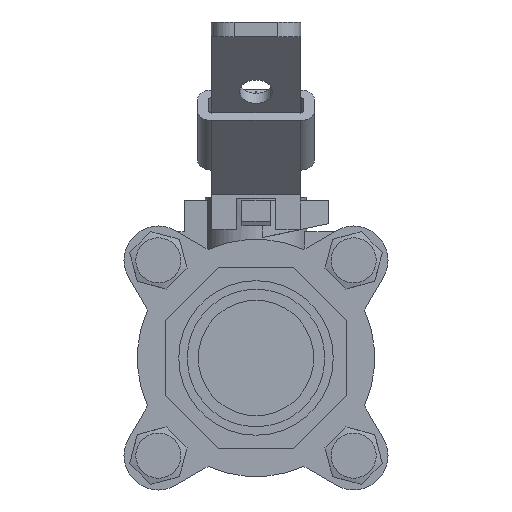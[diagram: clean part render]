
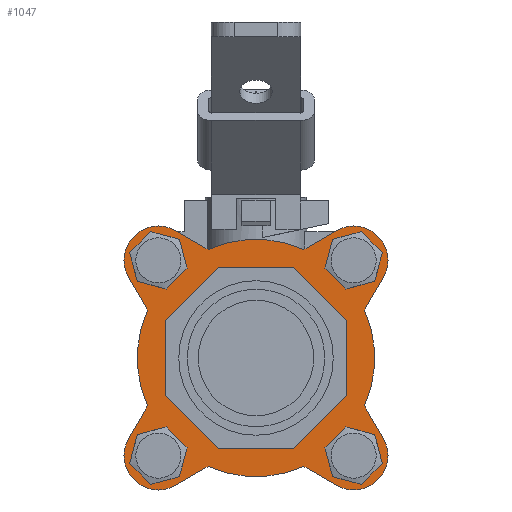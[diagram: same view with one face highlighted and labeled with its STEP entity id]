
A CAD part, left-side view. The second image highlights one B-rep face of the part: STEP entity #1047.
In plain terms, the highlighted planar face has unit normal (-1, 0, 0).
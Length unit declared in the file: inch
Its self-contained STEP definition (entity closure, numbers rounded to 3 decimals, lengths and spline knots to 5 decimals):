
#455=CARTESIAN_POINT('',(0.721,0.91005,-1.2134));
#456=VERTEX_POINT('',#455);
#457=CARTESIAN_POINT('',(0.721,1.06172,-1.06172));
#458=DIRECTION('',(1.0,0.,0.));
#459=DIRECTION('',(0.,-0.707,-0.707));
#460=AXIS2_PLACEMENT_3D('',#457,#458,#459);
#461=CIRCLE('',#460,0.2145);
#462=EDGE_CURVE('',#456,#456,#461,.T.);
#494=CARTESIAN_POINT('',(0.721,1.2134,0.91005));
#495=VERTEX_POINT('',#494);
#496=CARTESIAN_POINT('',(0.721,1.06172,1.06172));
#497=DIRECTION('',(1.0,0.,0.));
#498=DIRECTION('',(0.,0.707,-0.707));
#499=AXIS2_PLACEMENT_3D('',#496,#497,#498);
#500=CIRCLE('',#499,0.2145);
#501=EDGE_CURVE('',#495,#495,#500,.T.);
#554=CARTESIAN_POINT('',(0.721,-1.2134,0.91005));
#555=VERTEX_POINT('',#554);
#556=CARTESIAN_POINT('',(0.721,-1.06172,1.06172));
#557=DIRECTION('',(1.0,0.,0.));
#558=DIRECTION('',(0.,-0.707,-0.707));
#559=AXIS2_PLACEMENT_3D('',#556,#557,#558);
#560=CIRCLE('',#559,0.2145);
#561=EDGE_CURVE('',#555,#555,#560,.T.);
#614=CARTESIAN_POINT('',(0.721,-0.91005,-1.2134));
#615=VERTEX_POINT('',#614);
#616=CARTESIAN_POINT('',(0.721,-1.06172,-1.06172));
#617=DIRECTION('',(1.0,0.,0.));
#618=DIRECTION('',(0.,0.707,-0.707));
#619=AXIS2_PLACEMENT_3D('',#616,#617,#618);
#620=CIRCLE('',#619,0.2145);
#621=EDGE_CURVE('',#615,#615,#620,.T.);
#826=CARTESIAN_POINT('',(0.721,0.,0.0));
#827=DIRECTION('',(1.0,0.0,0.0));
#828=DIRECTION('',(0.0,0.707,-0.707));
#829=AXIS2_PLACEMENT_3D('',#826,#827,#828);
#830=PLANE('',#829);
#831=CARTESIAN_POINT('',(0.721,1.17982,-0.52166));
#832=VERTEX_POINT('',#831);
#833=CARTESIAN_POINT('',(0.721,1.17982,0.52166));
#834=VERTEX_POINT('',#833);
#835=CARTESIAN_POINT('',(0.721,0.,0.0));
#836=DIRECTION('',(1.0,0.,0.));
#837=DIRECTION('',(0.,0.707,0.707));
#838=AXIS2_PLACEMENT_3D('',#835,#836,#837);
#839=CIRCLE('',#838,1.29);
#840=EDGE_CURVE('',#832,#834,#839,.T.);
#841=ORIENTED_EDGE('',*,*,#840,.F.);
#842=CARTESIAN_POINT('',(0.721,1.38463,-0.87403));
#843=VERTEX_POINT('',#842);
#844=CARTESIAN_POINT('',(0.721,1.17982,-0.52166));
#845=DIRECTION('',(0.0,0.503,-0.865));
#846=VECTOR('',#845,0.40757);
#847=LINE('',#844,#846);
#848=EDGE_CURVE('',#832,#843,#847,.T.);
#849=ORIENTED_EDGE('',*,*,#848,.T.);
#850=CARTESIAN_POINT('',(0.721,0.87403,-1.38463));
#851=VERTEX_POINT('',#850);
#852=CARTESIAN_POINT('',(0.721,1.06172,-1.06172));
#853=DIRECTION('',(-1.0,0.,0.));
#854=DIRECTION('',(0.,0.707,-0.707));
#855=AXIS2_PLACEMENT_3D('',#852,#853,#854);
#856=CIRCLE('',#855,0.3735);
#857=EDGE_CURVE('',#843,#851,#856,.T.);
#858=ORIENTED_EDGE('',*,*,#857,.T.);
#859=CARTESIAN_POINT('',(0.721,0.52166,-1.17982));
#860=VERTEX_POINT('',#859);
#861=CARTESIAN_POINT('',(0.721,0.87403,-1.38463));
#862=DIRECTION('',(0.0,-0.865,0.503));
#863=VECTOR('',#862,0.40757);
#864=LINE('',#861,#863);
#865=EDGE_CURVE('',#851,#860,#864,.T.);
#866=ORIENTED_EDGE('',*,*,#865,.T.);
#867=CARTESIAN_POINT('',(0.721,-0.52166,-1.17982));
#868=VERTEX_POINT('',#867);
#869=CARTESIAN_POINT('',(0.721,0.,0.0));
#870=DIRECTION('',(1.0,0.,0.));
#871=DIRECTION('',(0.,0.707,0.707));
#872=AXIS2_PLACEMENT_3D('',#869,#870,#871);
#873=CIRCLE('',#872,1.29);
#874=EDGE_CURVE('',#868,#860,#873,.T.);
#875=ORIENTED_EDGE('',*,*,#874,.F.);
#876=CARTESIAN_POINT('',(0.721,-0.87403,-1.38463));
#877=VERTEX_POINT('',#876);
#878=CARTESIAN_POINT('',(0.721,-0.87403,-1.38463));
#879=DIRECTION('',(0.0,0.865,0.503));
#880=VECTOR('',#879,0.40757);
#881=LINE('',#878,#880);
#882=EDGE_CURVE('',#877,#868,#881,.T.);
#883=ORIENTED_EDGE('',*,*,#882,.F.);
#884=CARTESIAN_POINT('',(0.721,-1.38463,-0.87403));
#885=VERTEX_POINT('',#884);
#886=CARTESIAN_POINT('',(0.721,-1.06172,-1.06172));
#887=DIRECTION('',(1.0,0.,0.));
#888=DIRECTION('',(0.,-0.707,-0.707));
#889=AXIS2_PLACEMENT_3D('',#886,#887,#888);
#890=CIRCLE('',#889,0.3735);
#891=EDGE_CURVE('',#885,#877,#890,.T.);
#892=ORIENTED_EDGE('',*,*,#891,.F.);
#893=CARTESIAN_POINT('',(0.721,-1.17982,-0.52166));
#894=VERTEX_POINT('',#893);
#895=CARTESIAN_POINT('',(0.721,-1.17982,-0.52166));
#896=DIRECTION('',(0.0,-0.503,-0.865));
#897=VECTOR('',#896,0.40757);
#898=LINE('',#895,#897);
#899=EDGE_CURVE('',#894,#885,#898,.T.);
#900=ORIENTED_EDGE('',*,*,#899,.F.);
#901=CARTESIAN_POINT('',(0.721,-1.17982,0.52166));
#902=VERTEX_POINT('',#901);
#903=CARTESIAN_POINT('',(0.721,0.,0.0));
#904=DIRECTION('',(1.0,0.,0.));
#905=DIRECTION('',(0.,0.707,0.707));
#906=AXIS2_PLACEMENT_3D('',#903,#904,#905);
#907=CIRCLE('',#906,1.29);
#908=EDGE_CURVE('',#902,#894,#907,.T.);
#909=ORIENTED_EDGE('',*,*,#908,.F.);
#910=CARTESIAN_POINT('',(0.721,-1.38463,0.87403));
#911=VERTEX_POINT('',#910);
#912=CARTESIAN_POINT('',(0.721,-1.38463,0.87403));
#913=DIRECTION('',(0.0,0.503,-0.865));
#914=VECTOR('',#913,0.40757);
#915=LINE('',#912,#914);
#916=EDGE_CURVE('',#911,#902,#915,.T.);
#917=ORIENTED_EDGE('',*,*,#916,.F.);
#918=CARTESIAN_POINT('',(0.721,-0.87403,1.38463));
#919=VERTEX_POINT('',#918);
#920=CARTESIAN_POINT('',(0.721,-1.06172,1.06172));
#921=DIRECTION('',(1.0,0.,0.));
#922=DIRECTION('',(0.,-0.707,0.707));
#923=AXIS2_PLACEMENT_3D('',#920,#921,#922);
#924=CIRCLE('',#923,0.3735);
#925=EDGE_CURVE('',#919,#911,#924,.T.);
#926=ORIENTED_EDGE('',*,*,#925,.F.);
#927=CARTESIAN_POINT('',(0.721,-0.52166,1.17982));
#928=VERTEX_POINT('',#927);
#929=CARTESIAN_POINT('',(0.721,-0.52166,1.17982));
#930=DIRECTION('',(0.0,-0.865,0.503));
#931=VECTOR('',#930,0.40757);
#932=LINE('',#929,#931);
#933=EDGE_CURVE('',#928,#919,#932,.T.);
#934=ORIENTED_EDGE('',*,*,#933,.F.);
#935=CARTESIAN_POINT('',(0.721,0.52166,1.17982));
#936=VERTEX_POINT('',#935);
#937=CARTESIAN_POINT('',(0.721,0.,0.0));
#938=DIRECTION('',(1.0,0.,0.));
#939=DIRECTION('',(0.,0.707,0.707));
#940=AXIS2_PLACEMENT_3D('',#937,#938,#939);
#941=CIRCLE('',#940,1.29);
#942=EDGE_CURVE('',#936,#928,#941,.T.);
#943=ORIENTED_EDGE('',*,*,#942,.F.);
#944=CARTESIAN_POINT('',(0.721,0.87403,1.38463));
#945=VERTEX_POINT('',#944);
#946=CARTESIAN_POINT('',(0.721,0.52166,1.17982));
#947=DIRECTION('',(0.0,0.865,0.503));
#948=VECTOR('',#947,0.40757);
#949=LINE('',#946,#948);
#950=EDGE_CURVE('',#936,#945,#949,.T.);
#951=ORIENTED_EDGE('',*,*,#950,.T.);
#952=CARTESIAN_POINT('',(0.721,1.38463,0.87403));
#953=VERTEX_POINT('',#952);
#954=CARTESIAN_POINT('',(0.721,1.06172,1.06172));
#955=DIRECTION('',(-1.0,0.,0.));
#956=DIRECTION('',(0.,0.707,0.707));
#957=AXIS2_PLACEMENT_3D('',#954,#955,#956);
#958=CIRCLE('',#957,0.3735);
#959=EDGE_CURVE('',#945,#953,#958,.T.);
#960=ORIENTED_EDGE('',*,*,#959,.T.);
#961=CARTESIAN_POINT('',(0.721,1.38463,0.87403));
#962=DIRECTION('',(0.0,-0.503,-0.865));
#963=VECTOR('',#962,0.40757);
#964=LINE('',#961,#963);
#965=EDGE_CURVE('',#953,#834,#964,.T.);
#966=ORIENTED_EDGE('',*,*,#965,.T.);
#967=EDGE_LOOP('',(#841,#849,#858,#866,#875,#883,#892,#900,#909,#917,#926,#934,#943,#951,#960,#966));
#968=FACE_OUTER_BOUND('',#967,.T.);
#969=CARTESIAN_POINT('',(0.721,-0.40904,-0.9875));
#970=VERTEX_POINT('',#969);
#971=CARTESIAN_POINT('',(0.721,-0.9875,-0.40904));
#972=VERTEX_POINT('',#971);
#973=CARTESIAN_POINT('',(0.721,-0.40904,-0.9875));
#974=DIRECTION('',(0.0,-0.707,0.707));
#975=VECTOR('',#974,0.81807);
#976=LINE('',#973,#975);
#977=EDGE_CURVE('',#970,#972,#976,.T.);
#978=ORIENTED_EDGE('',*,*,#977,.F.);
#979=CARTESIAN_POINT('',(0.721,0.40904,-0.9875));
#980=VERTEX_POINT('',#979);
#981=CARTESIAN_POINT('',(0.721,0.40904,-0.9875));
#982=DIRECTION('',(0.0,-1.0,0.0));
#983=VECTOR('',#982,0.81807);
#984=LINE('',#981,#983);
#985=EDGE_CURVE('',#980,#970,#984,.T.);
#986=ORIENTED_EDGE('',*,*,#985,.F.);
#987=CARTESIAN_POINT('',(0.721,0.9875,-0.40904));
#988=VERTEX_POINT('',#987);
#989=CARTESIAN_POINT('',(0.721,0.9875,-0.40904));
#990=DIRECTION('',(0.0,-0.707,-0.707));
#991=VECTOR('',#990,0.81807);
#992=LINE('',#989,#991);
#993=EDGE_CURVE('',#988,#980,#992,.T.);
#994=ORIENTED_EDGE('',*,*,#993,.F.);
#995=CARTESIAN_POINT('',(0.721,0.9875,0.40904));
#996=VERTEX_POINT('',#995);
#997=CARTESIAN_POINT('',(0.721,0.9875,0.40904));
#998=DIRECTION('',(0.0,0.0,-1.0));
#999=VECTOR('',#998,0.81807);
#1000=LINE('',#997,#999);
#1001=EDGE_CURVE('',#996,#988,#1000,.T.);
#1002=ORIENTED_EDGE('',*,*,#1001,.F.);
#1003=CARTESIAN_POINT('',(0.721,0.40904,0.9875));
#1004=VERTEX_POINT('',#1003);
#1005=CARTESIAN_POINT('',(0.721,0.40904,0.9875));
#1006=DIRECTION('',(0.0,0.707,-0.707));
#1007=VECTOR('',#1006,0.81807);
#1008=LINE('',#1005,#1007);
#1009=EDGE_CURVE('',#1004,#996,#1008,.T.);
#1010=ORIENTED_EDGE('',*,*,#1009,.F.);
#1011=CARTESIAN_POINT('',(0.721,-0.40904,0.9875));
#1012=VERTEX_POINT('',#1011);
#1013=CARTESIAN_POINT('',(0.721,-0.40904,0.9875));
#1014=DIRECTION('',(0.0,1.0,0.0));
#1015=VECTOR('',#1014,0.81807);
#1016=LINE('',#1013,#1015);
#1017=EDGE_CURVE('',#1012,#1004,#1016,.T.);
#1018=ORIENTED_EDGE('',*,*,#1017,.F.);
#1019=CARTESIAN_POINT('',(0.721,-0.9875,0.40904));
#1020=VERTEX_POINT('',#1019);
#1021=CARTESIAN_POINT('',(0.721,-0.9875,0.40904));
#1022=DIRECTION('',(0.0,0.707,0.707));
#1023=VECTOR('',#1022,0.81807);
#1024=LINE('',#1021,#1023);
#1025=EDGE_CURVE('',#1020,#1012,#1024,.T.);
#1026=ORIENTED_EDGE('',*,*,#1025,.F.);
#1027=CARTESIAN_POINT('',(0.721,-0.9875,-0.40904));
#1028=DIRECTION('',(0.0,0.0,1.0));
#1029=VECTOR('',#1028,0.81807);
#1030=LINE('',#1027,#1029);
#1031=EDGE_CURVE('',#972,#1020,#1030,.T.);
#1032=ORIENTED_EDGE('',*,*,#1031,.F.);
#1033=EDGE_LOOP('',(#978,#986,#994,#1002,#1010,#1018,#1026,#1032));
#1034=FACE_BOUND('',#1033,.T.);
#1035=ORIENTED_EDGE('',*,*,#621,.T.);
#1036=EDGE_LOOP('',(#1035));
#1037=FACE_BOUND('',#1036,.T.);
#1038=ORIENTED_EDGE('',*,*,#561,.T.);
#1039=EDGE_LOOP('',(#1038));
#1040=FACE_BOUND('',#1039,.T.);
#1041=ORIENTED_EDGE('',*,*,#501,.T.);
#1042=EDGE_LOOP('',(#1041));
#1043=FACE_BOUND('',#1042,.T.);
#1044=ORIENTED_EDGE('',*,*,#462,.T.);
#1045=EDGE_LOOP('',(#1044));
#1046=FACE_BOUND('',#1045,.T.);
#1047=ADVANCED_FACE('',(#968,#1034,#1037,#1040,#1043,#1046),#830,.F.);
